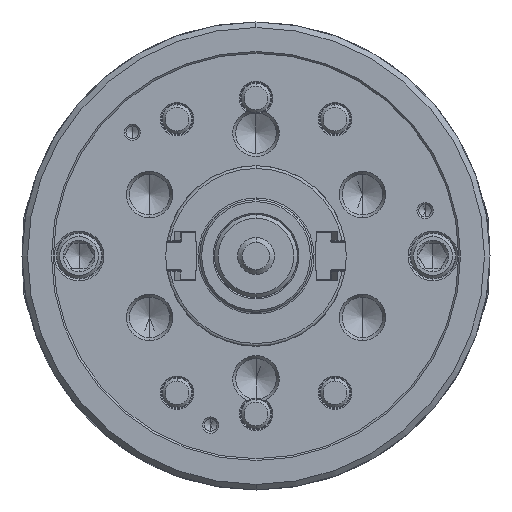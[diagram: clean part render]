
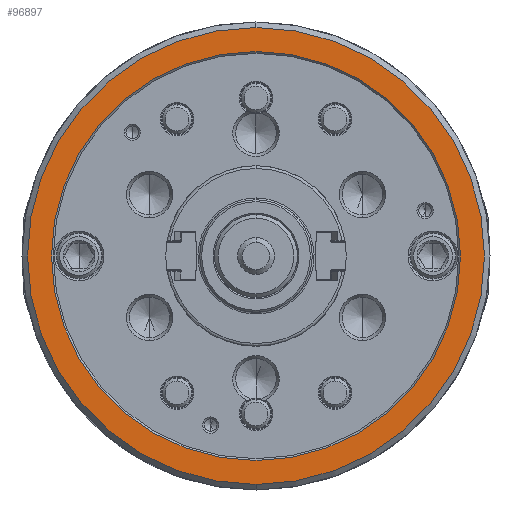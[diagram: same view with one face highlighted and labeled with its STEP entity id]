
A CAD part, left-side view. The second image highlights one B-rep face of the part: STEP entity #96897.
In plain terms, the highlighted planar face has unit normal (-1, 0, 0).
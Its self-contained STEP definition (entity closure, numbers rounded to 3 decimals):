
#267 = EDGE_CURVE ( 'NONE', #53125, #42950, #60194, .T. ) ;
#7108 = FACE_OUTER_BOUND ( 'NONE', #27888, .T. ) ;
#8244 = DIRECTION ( 'NONE',  ( 0., 0., -1. ) ) ;
#8750 = DIRECTION ( 'NONE',  ( 1., 0., 0. ) ) ;
#9574 = DIRECTION ( 'NONE',  ( 0., 0., -1. ) ) ;
#9835 = EDGE_CURVE ( 'NONE', #37332, #49867, #30074, .T. ) ;
#16288 = ORIENTED_EDGE ( 'NONE', *, *, #267, .F. ) ;
#17040 = AXIS2_PLACEMENT_3D ( 'NONE', #95250, #26027, #25533 ) ;
#23366 = ORIENTED_EDGE ( 'NONE', *, *, #9835, .T. ) ;
#24182 = CARTESIAN_POINT ( 'NONE',  ( -89., 0., 111. ) ) ;
#24519 = CARTESIAN_POINT ( 'NONE',  ( -89., 0., 0. ) ) ;
#25533 = DIRECTION ( 'NONE',  ( 0., 0., -1. ) ) ;
#26027 = DIRECTION ( 'NONE',  ( 1., 0., 0. ) ) ;
#26072 = CARTESIAN_POINT ( 'NONE',  ( -89., 0., -111. ) ) ;
#27888 = EDGE_LOOP ( 'NONE', ( #16288, #46372 ) ) ;
#28885 = DIRECTION ( 'NONE',  ( 0., 0., -1. ) ) ;
#30074 = CIRCLE ( 'NONE', #17040, 111. ) ;
#30536 = CARTESIAN_POINT ( 'NONE',  ( -89., -124., 0. ) ) ;
#31412 = ORIENTED_EDGE ( 'NONE', *, *, #80902, .T. ) ;
#31493 = CARTESIAN_POINT ( 'NONE',  ( -89., 0., 124. ) ) ;
#37332 = VERTEX_POINT ( 'NONE', #24182 ) ;
#38176 = PLANE ( 'NONE',  #94677 ) ;
#38684 = DIRECTION ( 'NONE',  ( 1., 0., 0. ) ) ;
#40749 = CIRCLE ( 'NONE', #60219, 124. ) ;
#42950 = VERTEX_POINT ( 'NONE', #31493 ) ;
#46372 = ORIENTED_EDGE ( 'NONE', *, *, #58604, .F. ) ;
#49867 = VERTEX_POINT ( 'NONE', #26072 ) ;
#53125 = VERTEX_POINT ( 'NONE', #80672 ) ;
#58604 = EDGE_CURVE ( 'NONE', #42950, #53125, #40749, .T. ) ;
#60194 = CIRCLE ( 'NONE', #65098, 124. ) ;
#60219 = AXIS2_PLACEMENT_3D ( 'NONE', #24519, #8750, #8244 ) ;
#65098 = AXIS2_PLACEMENT_3D ( 'NONE', #82389, #74268, #28885 ) ;
#74268 = DIRECTION ( 'NONE',  ( 1., 0., 0. ) ) ;
#76901 = FACE_BOUND ( 'NONE', #85648, .T. ) ;
#78538 = CIRCLE ( 'NONE', #88277, 111. ) ;
#79363 = CARTESIAN_POINT ( 'NONE',  ( -89., 0., 0. ) ) ;
#80672 = CARTESIAN_POINT ( 'NONE',  ( -89., 0., -124. ) ) ;
#80902 = EDGE_CURVE ( 'NONE', #49867, #37332, #78538, .T. ) ;
#82389 = CARTESIAN_POINT ( 'NONE',  ( -89., 0., 0. ) ) ;
#85447 = DIRECTION ( 'NONE',  ( 1., 0., 0. ) ) ;
#85648 = EDGE_LOOP ( 'NONE', ( #23366, #31412 ) ) ;
#88277 = AXIS2_PLACEMENT_3D ( 'NONE', #79363, #85447, #9574 ) ;
#92621 = DIRECTION ( 'NONE',  ( 0., 0., -1. ) ) ;
#94677 = AXIS2_PLACEMENT_3D ( 'NONE', #30536, #38684, #92621 ) ;
#95250 = CARTESIAN_POINT ( 'NONE',  ( -89., 0., 0. ) ) ;
#96897 = ADVANCED_FACE ( 'NONE', ( #7108, #76901 ), #38176, .F. ) ;
